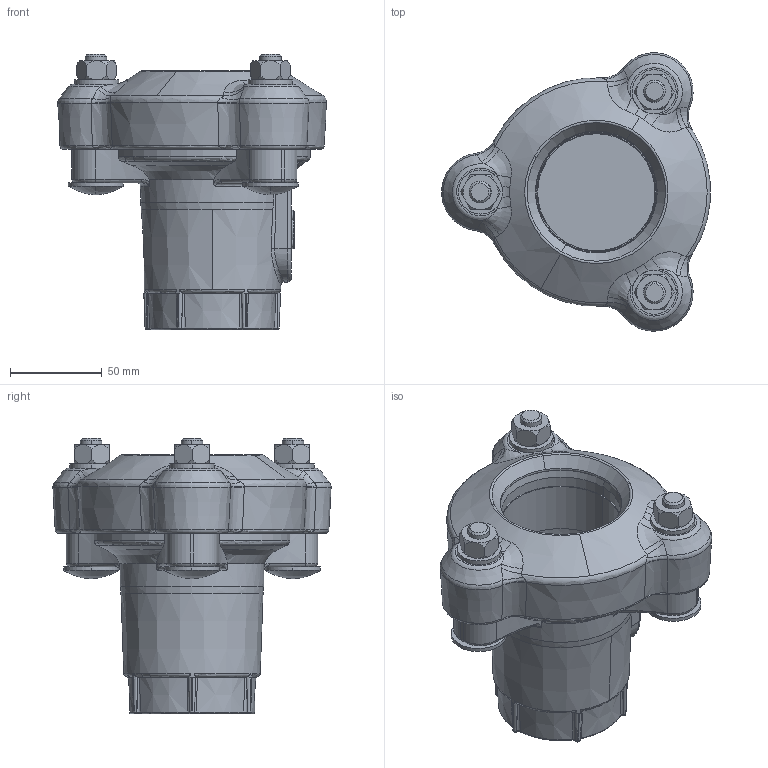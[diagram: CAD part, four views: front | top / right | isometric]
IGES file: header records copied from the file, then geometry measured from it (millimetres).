
Global section: file name: No Iges File Name specified; native system: AutoDesk Inventor R12.0; preprocessor: AutoDesk Inventor Iges Exporter R12.0; date: 20120423.105505; units: millimetre
Bounding box: 146.14 x 151.4 x 150 mm (x, y, z)
Volume: 450346.5 mm3; surface area: 143598.1 mm2
Topology: 1 solids, 1 shells, 632 faces, 1732 edges, 1103 vertices
Faces by surface type: plane 155, bspline 119, torus 100, cone 100, revolution 83, cylinder 75
